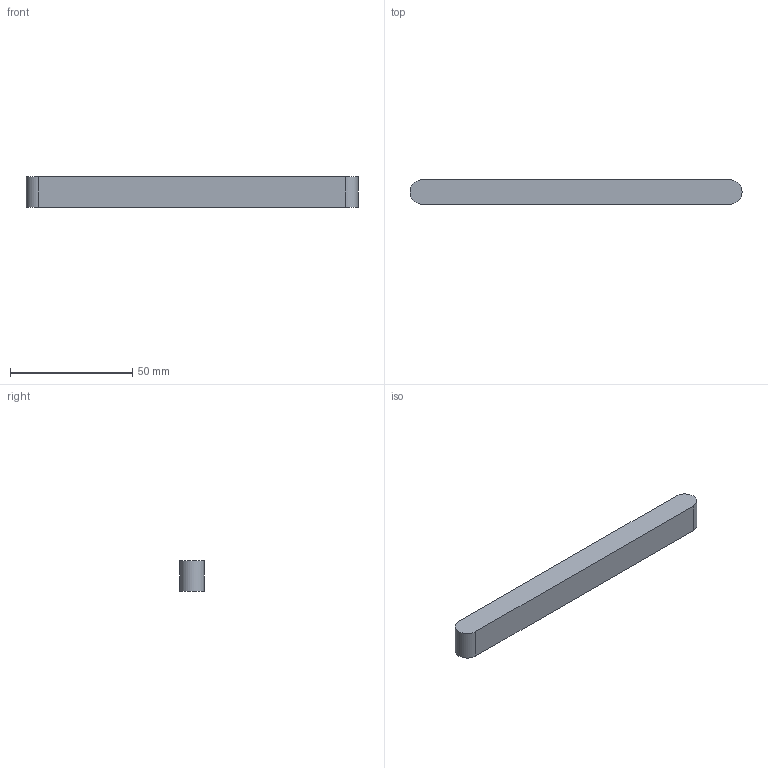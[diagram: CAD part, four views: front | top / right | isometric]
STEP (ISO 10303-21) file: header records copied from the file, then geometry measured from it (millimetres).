
FILE_DESCRIPTION(('Open CASCADE Model'),'2;1');
FILE_NAME('Open CASCADE Shape Model','2026-10-21T18:55:21',('Author'),( 'Open CASCADE'),'Open CASCADE STEP processor 8.0','build123d', 'Unknown');
FILE_SCHEMA(('AUTOMOTIVE_DESIGN { 1 0 10303 214 1 1 1 1 }'));
Length unit declared in the file: millimetre
Products named in the file (1): COMPOUND
Bounding box: 135.85 x 10 x 12.3 mm (x, y, z)
Volume: 16445.6 mm3; surface area: 6156.4 mm2
Topology: 1 solids, 1 shells, 6 faces, 12 edges, 8 vertices
Faces by surface type: plane 4, cylinder 2
Entity records: 338 total; most frequent: CARTESIAN_POINT 75, DIRECTION 50, LINE 28, VECTOR 28, ORIENTED_EDGE 24, PCURVE 24, DEFINITIONAL_REPRESENTATION 24, EDGE_CURVE 12
